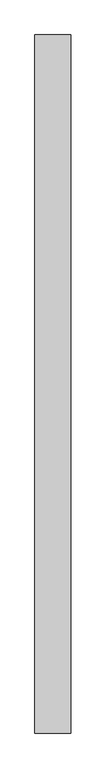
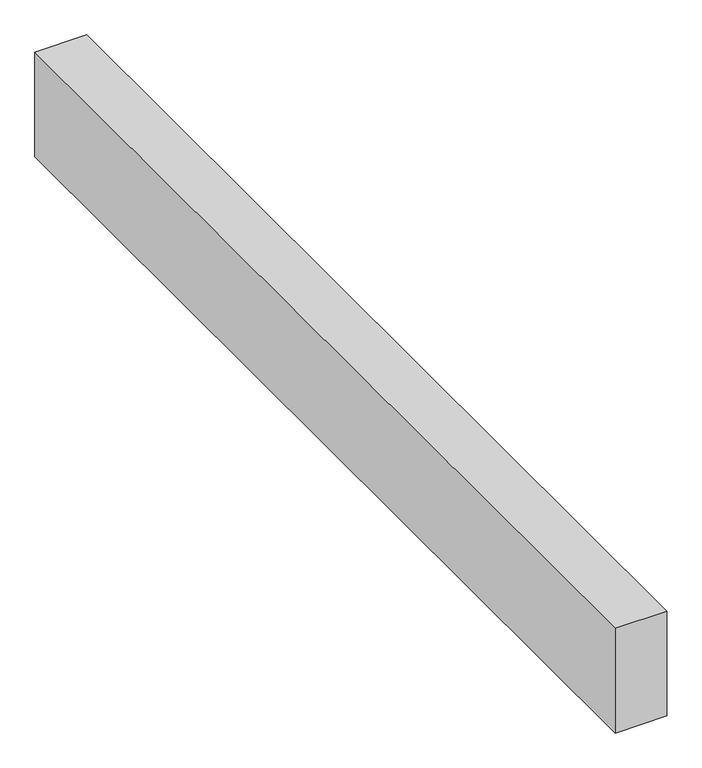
"""IFC4 building model written with IfcOpenShell, lengths in millimetres: proxy geometry."""

from ifc_helpers import new_model, si_unit, frame, origin, place, context, project, spatial, polyline, outline, extrude, source, transform, mapped, element, save


def structural_framing_7747f7a7(model_context):
    return source(origin(), model_context, "Body", "SweptSolid", [
        extrude(outline(polyline([(70.0, -1362.5), (-70.0, -1362.5), (-70.0, 1362.5), (70.0, 1362.5), (70.0, -1362.5)])), frame((0.0, 0.0, -300.0), z_axis=(0.0, 0.0, 1.0), x_axis=(1.0, 0.0, 0.0)), (0.0, 0.0, 1.0), 300.0),
    ])


if __name__ == "__main__":
    model = new_model("IFC4")
    model_context = context("Model", 3, world=origin())
    ifc_project = project(units=[si_unit("LENGTHUNIT", "METRE", prefix="MILLI")], contexts=[model_context])
    site = spatial("IfcSite", under=ifc_project)
    building = spatial("IfcBuilding", under=site)
    placement = place(None, origin())
    structural_framing_shape = structural_framing_7747f7a7(model_context)
    element("IfcBuildingElementProxy", 1, Name="Structural Framing", at=placement, inside=building, context=model_context, shape_type="MappedRepresentation", body=[
        mapped(structural_framing_shape, transform((0.0, 0.0, 0.0), x_axis=(1.0, 0.0, 0.0), y_axis=(0.0, 1.0, 0.0), z_axis=(0.0, 0.0, 1.0))),
    ])
    save(model, "model.ifc")
